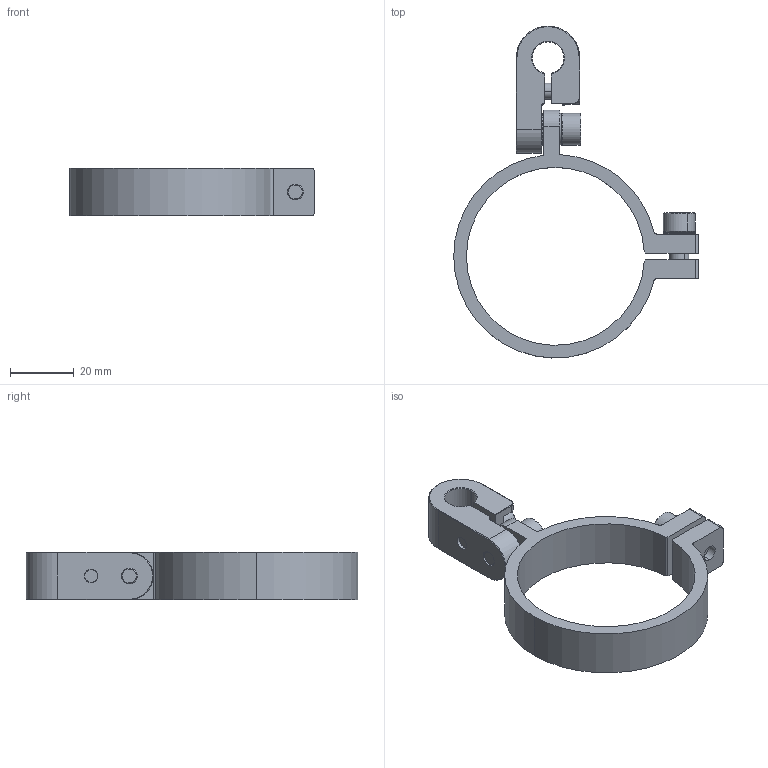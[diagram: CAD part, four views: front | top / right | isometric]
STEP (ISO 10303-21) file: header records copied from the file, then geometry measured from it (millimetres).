
FILE_DESCRIPTION (( 'STEP AP214' ), '1' );
FILE_NAME ('SCE-NR30-D10.STEP', '2021-03-19T01:50:12', ( '微软用户' ), ( '微软中国' ), 'SwSTEP 2.0', 'SolidWorks 2018', '' );
FILE_SCHEMA (( 'AUTOMOTIVE_DESIGN' ));
Length unit declared in the file: millimetre
Products named in the file (8): 2.Y05466; SCE-NR30-D10; 2.Y08265; PTS-M6; PTS-M5; PTC-M6L14; PTC-M6L12; PTC-M5L14
Assembly tree (9 placements, depth 2):
  SCE-NR30-D10
    2.Y05466
    PTC-M5L14
    PTC-M6L12
    PTC-M6L14
    PTS-M5
    PTS-M6  x3
    2.Y08265
Bounding box: 77 x 104.48 x 15 mm (x, y, z)
Volume: 22315.1 mm3; surface area: 14700.7 mm2
Topology: 9 solids, 9 shells, 944 faces, 2698 edges, 1770 vertices
Faces by surface type: plane 848, cylinder 64, cone 26, torus 6
Entity records: 18254 total; most frequent: DIRECTION 3180, CARTESIAN_POINT 3116, ORIENTED_EDGE 3076, EDGE_CURVE 1538, AXIS2_PLACEMENT_3D 1082, LINE 1016, VECTOR 1016, VERTEX_POINT 1002
